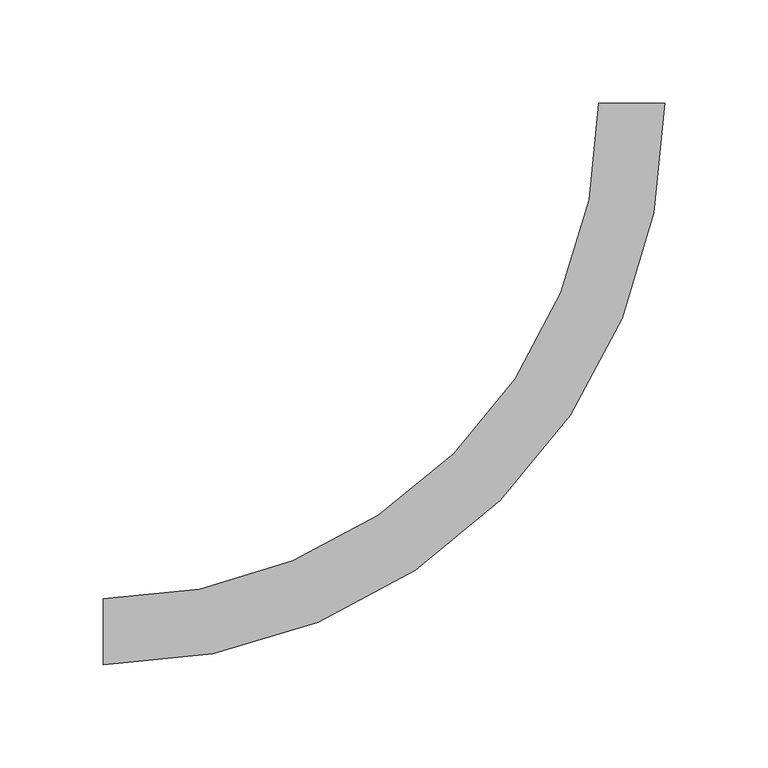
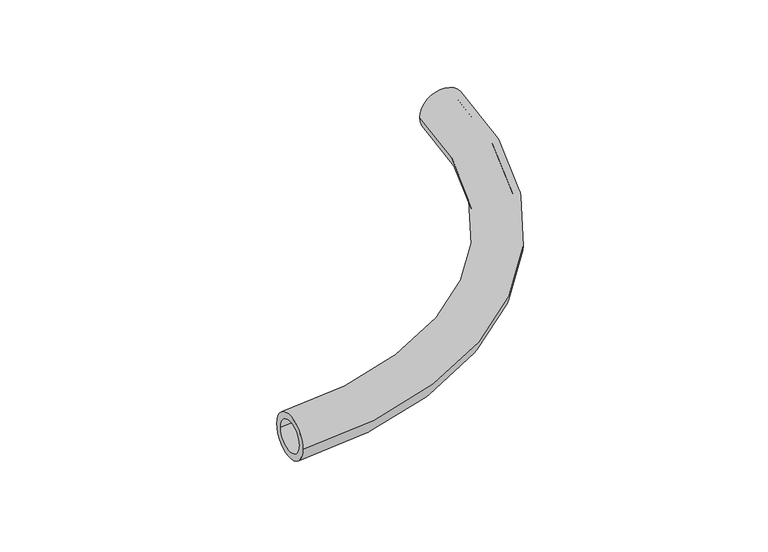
"""IFC4 building model written with IfcOpenShell, lengths in millimetres: pipe fitting geometry, FASTLOC_ML_bend : FSL ML AT."""

from ifc_helpers import new_model, si_unit, point, frame, origin, place, context, project, spatial, circle_curve, ellipse_curve, trimmed, source, transform, mapped, element, save
from ifc_brep_helpers import plane_surface, revolved_surface, advanced_brep


def pipe_fitting_ffedae39(model_context):
    return source(origin(), model_context, "Body", "AdvancedBrep", [
        advanced_brep(
        [(-256.0, -16.0, 0.0), (-256.0, 16.0, 0.0), (-256.0, -11.3, 0.0), (-256.0, 11.3, 0.0), (16.0, 256.0, 0.0), (-16.0, 256.0, 0.0), (11.3, 256.0, 0.0), (-11.3, 256.0, 0.0)],
        [
            (0, 1, circle_curve(frame((-256.0, 0.0, 0.0), z_axis=(-1.0, 0.0, 0.0), x_axis=(0.0, 1.0, 0.0)), 16.0)),
            (1, 0, circle_curve(frame((-256.0, 0.0, 0.0), z_axis=(-1.0, 0.0, 0.0), x_axis=(0.0, 1.0, 0.0)), 16.0)),
            (2, 3, circle_curve(frame((-256.0, 0.0, 0.0), z_axis=(1.0, 0.0, 0.0), x_axis=(0.0, 1.0, 0.0)), 11.3)),
            (3, 2, circle_curve(frame((-256.0, 0.0, 0.0), z_axis=(1.0, 0.0, 0.0), x_axis=(0.0, 1.0, 0.0)), 11.3)),
            (4, 5, circle_curve(frame((0.0, 256.0, 0.0), z_axis=(0.0, 1.0, 0.0), x_axis=(-1.0, 0.0, 0.0)), 16.0)),
            (5, 4, circle_curve(frame((0.0, 256.0, 0.0), z_axis=(0.0, 1.0, 0.0), x_axis=(-1.0, 0.0, 0.0)), 16.0)),
            (6, 7, circle_curve(frame((0.0, 256.0, 0.0), z_axis=(0.0, -1.0, 0.0), x_axis=(-1.0, 0.0, 0.0)), 11.3)),
            (7, 6, circle_curve(frame((0.0, 256.0, 0.0), z_axis=(0.0, -1.0, 0.0), x_axis=(-1.0, 0.0, 0.0)), 11.3)),
            (7, 3, circle_curve(frame((-256.0, 256.0, 0.0), z_axis=(0.0, 0.0, -1.0), x_axis=(0.0, -1.0, 0.0)), 244.7)),
            (2, 6, circle_curve(frame((-256.0, 256.0, 0.0), z_axis=(0.0, 0.0, 1.0), x_axis=(0.0, -1.0, 0.0)), 267.3)),
            (5, 1, circle_curve(frame((-256.0, 256.0, 0.0), z_axis=(0.0, 0.0, -1.0), x_axis=(0.0, -1.0, 0.0)), 240.0)),
            (0, 4, circle_curve(frame((-256.0, 256.0, 0.0), z_axis=(0.0, 0.0, 1.0), x_axis=(0.0, -1.0, 0.0)), 272.0)),
        ],
        [
            plane_surface(frame((-256.0, 0.0, 0.0), z_axis=(-1.0, 0.0, 0.0), x_axis=(0.0, 0.0, 1.0))),
            plane_surface(frame((0.0, 256.0, 0.0), z_axis=(0.0, 1.0, 0.0), x_axis=(0.0, 0.0, 1.0))),
            revolved_surface(trimmed(ellipse_curve(frame((-256.0, 0.0, 0.0), z_axis=(1.0, 0.0, 0.0), x_axis=(0.0, 1.0, 0.0)), 11.3, 11.3), [point((-256.0, -11.3, 0.0))], [point((-256.0, 11.3, 0.0))], True, "CARTESIAN"), (-256.0, 256.0, 0.0), (0.0, 0.0, 1.0)),
            revolved_surface(trimmed(ellipse_curve(frame((-256.0, 0.0, 0.0), z_axis=(1.0, 0.0, 0.0), x_axis=(0.0, 1.0, 0.0)), 11.3, 11.3), [point((-256.0, 11.3, 0.0))], [point((-256.0, -11.3, 0.0))], True, "CARTESIAN"), (-256.0, 256.0, 0.0), (0.0, 0.0, 1.0)),
            revolved_surface(trimmed(ellipse_curve(frame((-256.0, 0.0, 0.0), z_axis=(-1.0, 0.0, 0.0), x_axis=(0.0, 1.0, 0.0)), 16.0, 16.0), [point((-256.0, -16.0, 0.0))], [point((-256.0, 16.0, 0.0))], True, "CARTESIAN"), (-256.0, 256.0, 0.0), (0.0, 0.0, 1.0)),
            revolved_surface(trimmed(ellipse_curve(frame((-256.0, 0.0, 0.0), z_axis=(-1.0, 0.0, 0.0), x_axis=(0.0, 1.0, 0.0)), 16.0, 16.0), [point((-256.0, 16.0, 0.0))], [point((-256.0, -16.0, 0.0))], True, "CARTESIAN"), (-256.0, 256.0, 0.0), (0.0, 0.0, 1.0)),
        ],
        [
            (0, [[1, 2], [3, 4]]),
            (1, [[5, 6], [7, 8]]),
            (2, [[9, -3, 10, -8]]),
            (3, [[-10, -4, -9, -7]]),
            (4, [[11, -1, 12, -6]]),
            (5, [[-12, -2, -11, -5]]),
        ],
    ),
    ])


if __name__ == "__main__":
    model = new_model("IFC4")
    model_context = context("Model", 3, world=origin())
    ifc_project = project(units=[si_unit("LENGTHUNIT", "METRE", prefix="MILLI")], contexts=[model_context])
    site = spatial("IfcSite", under=ifc_project)
    building = spatial("IfcBuilding", under=site)
    placement = place(None, origin())
    pipe_fitting_shape = pipe_fitting_ffedae39(model_context)
    element("IfcPipeFitting", 1, ObjectType="FASTLOC_ML_bend : FSL ML AT", at=placement, inside=building, context=model_context, shape_type="MappedRepresentation", body=[
        mapped(pipe_fitting_shape, transform((0.0, 0.0, 0.0), x_axis=(1.0, 0.0, 0.0), y_axis=(0.0, 1.0, 0.0), z_axis=(0.0, 0.0, 1.0))),
    ])
    save(model, "model.ifc")
